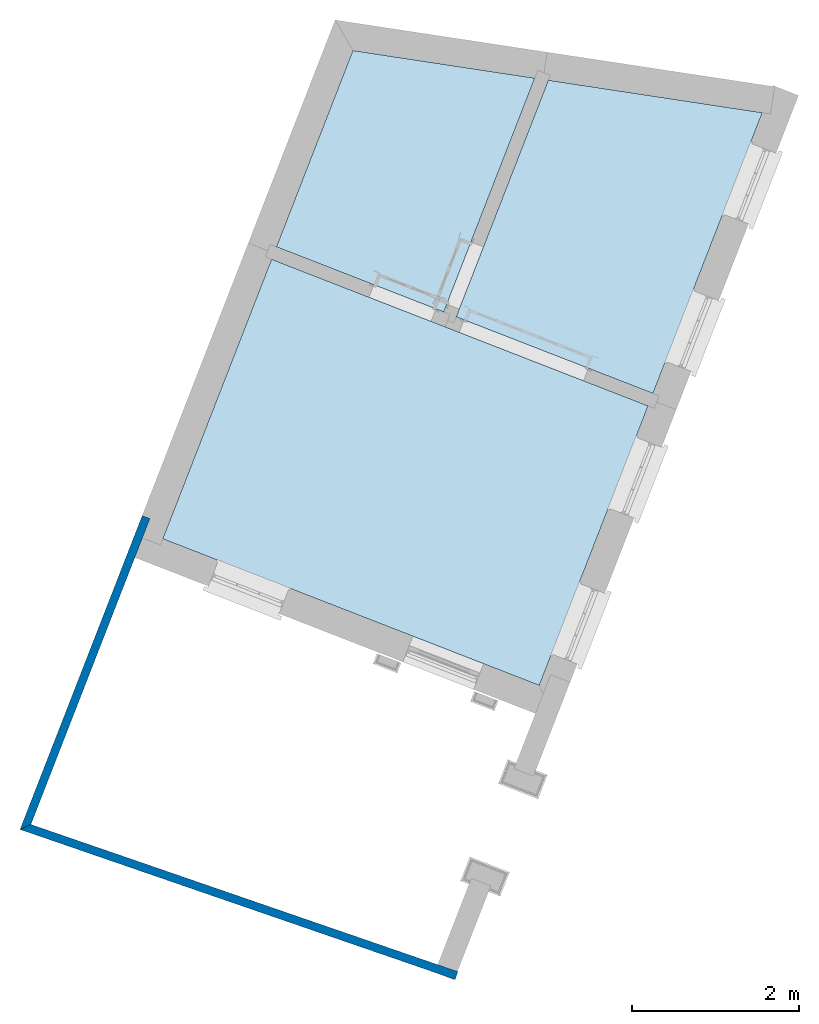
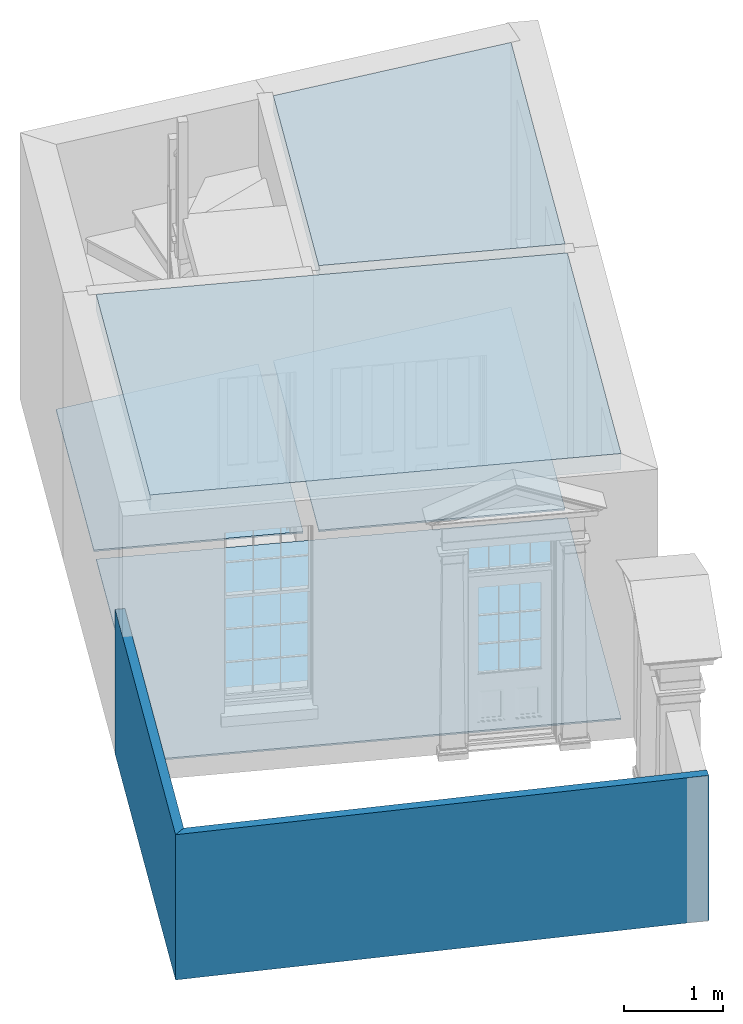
# One storey, part 1 of 7: 5 slabs, 2 walls.
"""IFC4 building model written with IfcOpenShell, lengths in metres."""

from ifc_helpers import new_model, si_unit, frame, origin_with_axes, place, context, subcontext, project, spatial, polyline, outline, extrude, material, layer, layer_set, layer_usage, type_object, element, save


model = new_model("IFC4")

# Units and contexts
model_context = context("Model", 3, world=origin_with_axes())
body_context = subcontext(model_context, "Body", "Model", "MODEL_VIEW")
ifc_project = project(units=[si_unit("PLANEANGLEUNIT", "RADIAN"), si_unit("MASSUNIT", "GRAM", prefix="KILO"), si_unit("FORCEUNIT", "NEWTON", prefix="KILO"), si_unit("LENGTHUNIT", "METRE"), si_unit("AREAUNIT", "SQUARE_METRE"), si_unit("VOLUMEUNIT", "CUBIC_METRE")], contexts=[model_context, model_context])

# Sites, building, storey
site_1_placement = place(None, origin_with_axes())
site_1 = spatial("IfcSite", under=ifc_project, at=site_1_placement, Name="Tamar")
site_2_placement = place(site_1_placement, origin_with_axes())
site_2 = spatial("IfcSite", under=site_1, at=site_2_placement, Name="Site plot-10", CompositionType="ELEMENT")
building_placement = place(None, origin_with_axes())
building = spatial("IfcBuilding", under=site_2, at=building_placement, Name="Building plot-10", CompositionType="ELEMENT")
storey_placement = place(None, frame((0.0, 0.0, 26.8), z_axis=(0.0, 0.0, 1.0), x_axis=(1.0, 0.0, 0.0)))
storey = spatial("IfcBuildingStorey", under=building, at=storey_placement, Name="plot-10 0", CompositionType="ELEMENT", Elevation=26.8)

# Slabs
slab_1_placement = place(storey_placement, frame((232.48526745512, 322.556787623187, 0.0)))
element("IfcSlab", 1, at=slab_1_placement, inside=storey, Name="My Slab", ObjectType="Slab", PredefinedType="FLOOR", context=body_context, shape_type="SweptSolid", body=[
    extrude(outline(polyline([(0.0, 0.0), (-0.915430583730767, -2.35126098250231), (1.08872988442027, -3.13155283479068), (2.17917616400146, -0.330768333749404), (0.0, 0.0)])), origin_with_axes(), (0.0, 0.0, 1.0), 0.02),
])
slab_2_placement = place(storey_placement, frame((234.82656201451, 322.201411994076, 3.1)))
element("IfcSlab", 2, at=slab_2_placement, inside=storey, Name="My Slab", ObjectType="Slab", PredefinedType="FLOOR", context=body_context, shape_type="SweptSolid", body=[
    extrude(outline(polyline([(0.0, 0.0), (-1.10346645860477, -2.83422651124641), (1.25349590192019, -3.75187684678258), (2.56278690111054, -0.38899505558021), (0.0, 0.0)])), origin_with_axes(), (0.0, 0.0, 1.0), 0.2),
])
slab_3_placement = place(storey_placement, frame((234.82656201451, 322.201411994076, 0.0)))
element("IfcSlab", 3, at=slab_3_placement, inside=storey, Name="My Slab", ObjectType="Slab", PredefinedType="FLOOR", context=body_context, shape_type="SweptSolid", body=[
    extrude(outline(polyline([(0.0, 0.0), (-1.10346645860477, -2.83422651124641), (1.25349590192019, -3.75187684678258), (2.56278690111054, -0.38899505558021), (0.0, 0.0)])), origin_with_axes(), (0.0, 0.0, 1.0), 0.02),
])
slab_4_placement = place(storey_placement, frame((231.511787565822, 320.05642842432, 3.1)))
element("IfcSlab", 4, at=slab_4_placement, inside=storey, Name="My Slab", ObjectType="Slab", PredefinedType="FLOOR", context=body_context, shape_type="SweptSolid", body=[
    extrude(outline(polyline([(0.0, 0.0), (-1.30357808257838, -3.34820830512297), (3.20664296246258, -5.10419979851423), (4.51022104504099, -1.75599149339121), (0.0, 0.0)])), origin_with_axes(), (0.0, 0.0, 1.0), 0.2),
])
slab_5_placement = place(storey_placement, frame((231.511787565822, 320.05642842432, 0.0)))
element("IfcSlab", 5, at=slab_5_placement, inside=storey, Name="My Slab", ObjectType="Slab", PredefinedType="FLOOR", context=body_context, shape_type="SweptSolid", body=[
    extrude(outline(polyline([(0.0, 0.0), (-1.30357808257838, -3.34820830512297), (3.20664296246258, -5.10419979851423), (4.51022104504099, -1.75599149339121), (0.0, 0.0)])), origin_with_axes(), (0.0, 0.0, 1.0), 0.02),
])

# Walls
ifc_material = material(Name="Masonry")
ifc_layer = layer(ifc_material, 0.1, ventilated=False)
ifc_layer_set = layer_set([ifc_layer], Name="fence_-0.15_0.25")
ifc_layer_usage = layer_usage(ifc_layer_set, "AXIS2", "POSITIVE", -0.25)
wall_type = type_object("IfcWallType", Name="fence_-0.15_0.25", PredefinedType="SOLIDWALL", material=ifc_layer_set)
wall_1_placement = place(storey_placement, frame((230.104635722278, 316.662695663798, 0.0), z_axis=(0.0, 0.0, 1.0), x_axis=(-0.362808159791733, -0.931863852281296, 0.0)))
element("IfcWall", 6, at=wall_1_placement, inside=storey, type_object=wall_type, material=ifc_layer_usage, Name="fence", context=body_context, shape_type="SweptSolid", body=[
    extrude(outline(polyline([(-0.249999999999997, -0.150000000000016), (-0.250000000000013, -0.25), (3.78508674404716, -0.249999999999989), (3.68107261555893, -0.150000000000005), (-0.249999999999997, -0.150000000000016)])), origin_with_axes(), (0.0, 0.0, 1.0), 1.8),
])
wall_2_placement = place(storey_placement, frame((228.825718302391, 313.377827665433, 0.0), z_axis=(0.0, 0.0, 1.0), x_axis=(0.945414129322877, -0.325871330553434, 0.0)))
element("IfcWall", 7, at=wall_2_placement, inside=storey, type_object=wall_type, material=ifc_layer_usage, Name="fence", context=body_context, shape_type="SweptSolid", body=[
    extrude(outline(polyline([(-0.156021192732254, -0.149999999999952), (-0.260035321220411, -0.250000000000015), (5.25387284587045, -0.249999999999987), (5.25387284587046, -0.14999999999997), (-0.156021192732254, -0.149999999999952)])), origin_with_axes(), (0.0, 0.0, 1.0), 1.8),
])

save(model, "model.ifc")
